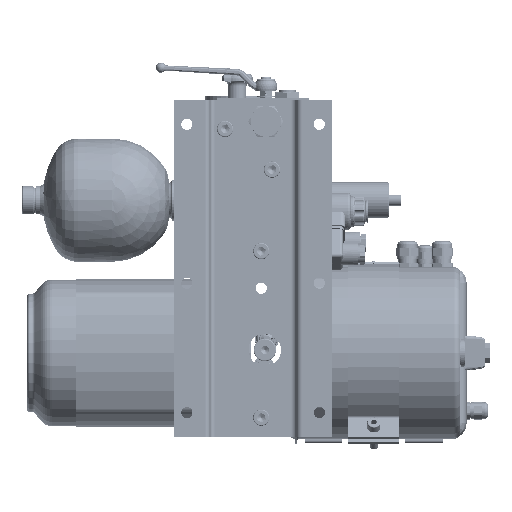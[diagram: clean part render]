
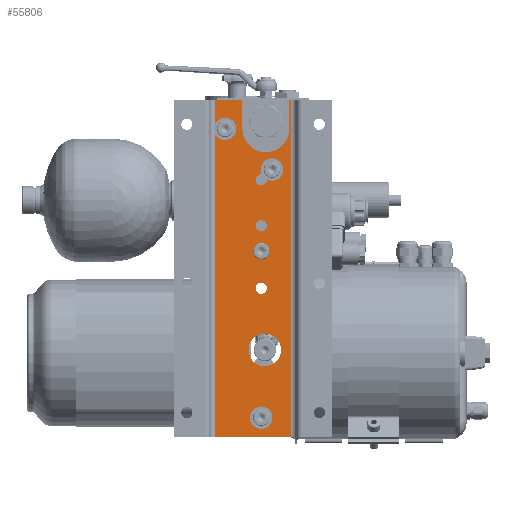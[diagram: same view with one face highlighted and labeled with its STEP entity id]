
A CAD part, front view. The second image highlights one B-rep face of the part: STEP entity #55806.
In plain terms, the highlighted planar face has unit normal (0, -1, 0).
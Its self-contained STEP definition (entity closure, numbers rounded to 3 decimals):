
#54300=DIRECTION('',(1.,0.,0.));
#54301=VECTOR('',#54300,2.);
#54302=CARTESIAN_POINT('',(68.264,-66.093,
247.035));
#54303=LINE('',#54302,#54301);
#54388=CARTESIAN_POINT('',(45.264,-66.093,
219.035));
#54389=DIRECTION('',(0.,1.,0.));
#54390=DIRECTION('',(0.,0.,-1.));
#54391=AXIS2_PLACEMENT_3D('',#54388,#54389,#54390);
#54396=CARTESIAN_POINT('',(45.264,-66.093,
219.035));
#54397=DIRECTION('',(0.,1.,0.));
#54398=DIRECTION('',(1.,0.,0.));
#54399=AXIS2_PLACEMENT_3D('',#54396,#54397,#54398);
#54404=DIRECTION('',(1.,0.,0.));
#54405=VECTOR('',#54404,75.);
#54406=CARTESIAN_POINT('',(-4.736,-66.093,
-82.965));
#54407=LINE('',#54406,#54405);
#54411=CARTESIAN_POINT('',(44.264,-66.093,
2.035));
#54412=DIRECTION('',(0.,1.,0.));
#54413=DIRECTION('',(0.,0.,1.));
#54414=AXIS2_PLACEMENT_3D('',#54411,#54412,#54413);
#54419=CARTESIAN_POINT('',(44.264,-66.093,
2.035));
#54420=DIRECTION('',(0.,1.,0.));
#54421=DIRECTION('',(0.,0.,-1.));
#54422=AXIS2_PLACEMENT_3D('',#54419,#54420,#54421);
#54427=CARTESIAN_POINT('',(40.764,-66.093,
169.035));
#54428=DIRECTION('',(0.,1.,0.));
#54429=DIRECTION('',(0.,0.,1.));
#54430=AXIS2_PLACEMENT_3D('',#54427,#54428,#54429);
#54435=CARTESIAN_POINT('',(40.764,-66.093,
169.035));
#54436=DIRECTION('',(0.,1.,0.));
#54437=DIRECTION('',(0.,0.,-1.));
#54438=AXIS2_PLACEMENT_3D('',#54435,#54436,#54437);
#54443=CARTESIAN_POINT('',(40.764,-66.093,
124.035));
#54444=DIRECTION('',(0.,1.,0.));
#54445=DIRECTION('',(0.,0.,1.));
#54446=AXIS2_PLACEMENT_3D('',#54443,#54444,#54445);
#54451=CARTESIAN_POINT('',(40.764,-66.093,
124.035));
#54452=DIRECTION('',(0.,1.,0.));
#54453=DIRECTION('',(0.,0.,-1.));
#54454=AXIS2_PLACEMENT_3D('',#54451,#54452,#54453);
#54459=CARTESIAN_POINT('',(5.264,-66.093,
219.035));
#54460=DIRECTION('',(0.,1.,0.));
#54461=DIRECTION('',(0.,0.,1.));
#54462=AXIS2_PLACEMENT_3D('',#54459,#54460,#54461);
#54467=CARTESIAN_POINT('',(5.264,-66.093,
219.035));
#54468=DIRECTION('',(0.,1.,0.));
#54469=DIRECTION('',(0.,0.,-1.));
#54470=AXIS2_PLACEMENT_3D('',#54467,#54468,#54469);
#54475=CARTESIAN_POINT('',(51.264,-66.093,
179.035));
#54476=DIRECTION('',(0.,1.,0.));
#54477=DIRECTION('',(0.,0.,1.));
#54478=AXIS2_PLACEMENT_3D('',#54475,#54476,#54477);
#54483=CARTESIAN_POINT('',(51.264,-66.093,
179.035));
#54484=DIRECTION('',(0.,1.,0.));
#54485=DIRECTION('',(0.,0.,-1.));
#54486=AXIS2_PLACEMENT_3D('',#54483,#54484,#54485);
#54491=CARTESIAN_POINT('',(40.764,-66.093,
99.035));
#54492=DIRECTION('',(0.,1.,0.));
#54493=DIRECTION('',(0.,0.,1.));
#54494=AXIS2_PLACEMENT_3D('',#54491,#54492,#54493);
#54499=CARTESIAN_POINT('',(40.764,-66.093,
99.035));
#54500=DIRECTION('',(0.,1.,0.));
#54501=DIRECTION('',(0.,0.,-1.));
#54502=AXIS2_PLACEMENT_3D('',#54499,#54500,#54501);
#54507=CARTESIAN_POINT('',(40.764,-66.093,
-64.465));
#54508=DIRECTION('',(0.,1.,0.));
#54509=DIRECTION('',(0.,0.,1.));
#54510=AXIS2_PLACEMENT_3D('',#54507,#54508,#54509);
#54515=CARTESIAN_POINT('',(40.764,-66.093,
-64.465));
#54516=DIRECTION('',(0.,1.,0.));
#54517=DIRECTION('',(0.,0.,-1.));
#54518=AXIS2_PLACEMENT_3D('',#54515,#54516,#54517);
#54523=CARTESIAN_POINT('',(40.764,-66.093,
62.535));
#54524=DIRECTION('',(0.,1.,0.));
#54525=DIRECTION('',(0.,0.,1.));
#54526=AXIS2_PLACEMENT_3D('',#54523,#54524,#54525);
#54531=CARTESIAN_POINT('',(40.764,-66.093,
62.535));
#54532=DIRECTION('',(0.,1.,0.));
#54533=DIRECTION('',(0.,0.,-1.));
#54534=AXIS2_PLACEMENT_3D('',#54531,#54532,#54533);
#54539=DIRECTION('',(0.,0.,1.));
#54540=VECTOR('',#54539,330.);
#54541=CARTESIAN_POINT('',(-4.736,-66.093,
-82.965));
#54542=LINE('',#54541,#54540);
#54567=DIRECTION('',(1.,0.,0.));
#54568=VECTOR('',#54567,27.);
#54569=CARTESIAN_POINT('',(-4.736,-66.093,
247.035));
#54570=LINE('',#54569,#54568);
#55113=DIRECTION('',(0.,0.,-1.));
#55114=VECTOR('',#55113,330.);
#55115=CARTESIAN_POINT('',(70.264,-66.093,
247.035));
#55116=LINE('',#55115,#55114);
#55314=DIRECTION('',(0.,0.,1.));
#55315=VECTOR('',#55314,28.);
#55316=CARTESIAN_POINT('',(68.264,-66.093,
219.035));
#55317=LINE('',#55316,#55315);
#55349=DIRECTION('',(0.,0.,-1.));
#55350=VECTOR('',#55349,28.);
#55351=CARTESIAN_POINT('',(22.264,-66.093,
247.035));
#55352=LINE('',#55351,#55350);
#55479=CARTESIAN_POINT('',(40.764,-66.093,
163.535));
#55480=CARTESIAN_POINT('',(40.764,-66.093,
174.535));
#55481=VERTEX_POINT('',#55479);
#55482=VERTEX_POINT('',#55480);
#55507=CARTESIAN_POINT('',(70.264,-66.093,
247.035));
#55508=VERTEX_POINT('',#55507);
#55533=CARTESIAN_POINT('',(44.264,-66.093,
-13.965));
#55534=CARTESIAN_POINT('',(44.264,-66.093,
18.035));
#55535=VERTEX_POINT('',#55533);
#55536=VERTEX_POINT('',#55534);
#55541=CARTESIAN_POINT('',(5.264,-66.093,
213.535));
#55542=CARTESIAN_POINT('',(5.264,-66.093,
224.535));
#55543=VERTEX_POINT('',#55541);
#55544=VERTEX_POINT('',#55542);
#55545=CARTESIAN_POINT('',(40.764,-66.093,
68.035));
#55546=VERTEX_POINT('',#55545);
#55566=CARTESIAN_POINT('',(40.764,-66.093,
-58.965));
#55568=VERTEX_POINT('',#55566);
#55571=CARTESIAN_POINT('',(22.264,-66.093,
247.035));
#55572=CARTESIAN_POINT('',(22.264,-66.093,
219.035));
#55573=VERTEX_POINT('',#55571);
#55574=VERTEX_POINT('',#55572);
#55585=CARTESIAN_POINT('',(-4.736,-66.093,
247.035));
#55586=VERTEX_POINT('',#55585);
#55597=CARTESIAN_POINT('',(68.264,-66.093,
219.035));
#55598=CARTESIAN_POINT('',(68.264,-66.093,
247.035));
#55599=VERTEX_POINT('',#55597);
#55600=VERTEX_POINT('',#55598);
#55607=CARTESIAN_POINT('',(-4.736,-66.093,
-82.965));
#55608=VERTEX_POINT('',#55607);
#55615=CARTESIAN_POINT('',(40.764,-66.093,
129.535));
#55616=CARTESIAN_POINT('',(40.764,-66.093,
118.535));
#55617=VERTEX_POINT('',#55615);
#55618=VERTEX_POINT('',#55616);
#55619=CARTESIAN_POINT('',(51.264,-66.093,
184.535));
#55620=CARTESIAN_POINT('',(51.264,-66.093,
173.535));
#55621=VERTEX_POINT('',#55619);
#55622=VERTEX_POINT('',#55620);
#55623=CARTESIAN_POINT('',(70.264,-66.093,
-82.965));
#55624=VERTEX_POINT('',#55623);
#55641=CARTESIAN_POINT('',(40.764,-66.093,
57.035));
#55642=VERTEX_POINT('',#55641);
#55643=CARTESIAN_POINT('',(45.264,-66.093,
196.035));
#55644=VERTEX_POINT('',#55643);
#55648=CARTESIAN_POINT('',(40.764,-66.093,
93.535));
#55650=VERTEX_POINT('',#55648);
#55666=CARTESIAN_POINT('',(40.764,-66.093,
104.535));
#55668=VERTEX_POINT('',#55666);
#55679=CARTESIAN_POINT('',(40.764,-66.093,
-69.965));
#55680=VERTEX_POINT('',#55679);
#55734=CARTESIAN_POINT('',(-4.736,-66.093,
247.035));
#55735=DIRECTION('',(0.,-1.,0.));
#55736=DIRECTION('',(0.,0.,-1.));
#55737=AXIS2_PLACEMENT_3D('',#55734,#55735,#55736);
#55738=PLANE('',#55737);
#55740=ORIENTED_EDGE('',*,*,#55739,.T.);
#55742=ORIENTED_EDGE('',*,*,#55741,.T.);
#55744=ORIENTED_EDGE('',*,*,#55743,.T.);
#55746=ORIENTED_EDGE('',*,*,#55745,.F.);
#55748=ORIENTED_EDGE('',*,*,#55747,.F.);
#55750=ORIENTED_EDGE('',*,*,#55749,.T.);
#55751=ORIENTED_EDGE('',*,*,#55708,.T.);
#55753=ORIENTED_EDGE('',*,*,#55752,.T.);
#55755=ORIENTED_EDGE('',*,*,#55754,.F.);
#55756=EDGE_LOOP('',(#55740,#55742,#55744,#55746,#55748,#55750,#55751,#55753,
#55755));
#55757=FACE_OUTER_BOUND('',#55756,.F.);
#55759=ORIENTED_EDGE('',*,*,#55758,.F.);
#55761=ORIENTED_EDGE('',*,*,#55760,.F.);
#55762=EDGE_LOOP('',(#55759,#55761));
#55763=FACE_BOUND('',#55762,.F.);
#55765=ORIENTED_EDGE('',*,*,#55764,.F.);
#55767=ORIENTED_EDGE('',*,*,#55766,.F.);
#55768=EDGE_LOOP('',(#55765,#55767));
#55769=FACE_BOUND('',#55768,.F.);
#55771=ORIENTED_EDGE('',*,*,#55770,.F.);
#55773=ORIENTED_EDGE('',*,*,#55772,.F.);
#55774=EDGE_LOOP('',(#55771,#55773));
#55775=FACE_BOUND('',#55774,.F.);
#55777=ORIENTED_EDGE('',*,*,#55776,.F.);
#55779=ORIENTED_EDGE('',*,*,#55778,.F.);
#55780=EDGE_LOOP('',(#55777,#55779));
#55781=FACE_BOUND('',#55780,.F.);
#55783=ORIENTED_EDGE('',*,*,#55782,.F.);
#55785=ORIENTED_EDGE('',*,*,#55784,.F.);
#55786=EDGE_LOOP('',(#55783,#55785));
#55787=FACE_BOUND('',#55786,.F.);
#55789=ORIENTED_EDGE('',*,*,#55788,.F.);
#55791=ORIENTED_EDGE('',*,*,#55790,.F.);
#55792=EDGE_LOOP('',(#55789,#55791));
#55793=FACE_BOUND('',#55792,.F.);
#55795=ORIENTED_EDGE('',*,*,#55794,.F.);
#55797=ORIENTED_EDGE('',*,*,#55796,.F.);
#55798=EDGE_LOOP('',(#55795,#55797));
#55799=FACE_BOUND('',#55798,.F.);
#55801=ORIENTED_EDGE('',*,*,#55800,.F.);
#55803=ORIENTED_EDGE('',*,*,#55802,.F.);
#55804=EDGE_LOOP('',(#55801,#55803));
#55805=FACE_BOUND('',#55804,.F.);
#55806=ADVANCED_FACE('',(#55757,#55763,#55769,#55775,#55781,#55787,#55793,
#55799,#55805),#55738,.T.);
#54392=CIRCLE('',#54391,23.);
#54400=CIRCLE('',#54399,23.);
#54415=CIRCLE('',#54414,16.);
#54423=CIRCLE('',#54422,16.);
#54431=CIRCLE('',#54430,5.5);
#54439=CIRCLE('',#54438,5.5);
#54447=CIRCLE('',#54446,5.5);
#54455=CIRCLE('',#54454,5.5);
#54463=CIRCLE('',#54462,5.5);
#54471=CIRCLE('',#54470,5.5);
#54479=CIRCLE('',#54478,5.5);
#54487=CIRCLE('',#54486,5.5);
#54495=CIRCLE('',#54494,5.5);
#54503=CIRCLE('',#54502,5.5);
#54511=CIRCLE('',#54510,5.5);
#54519=CIRCLE('',#54518,5.5);
#54527=CIRCLE('',#54526,5.5);
#54535=CIRCLE('',#54534,5.5);
#55708=EDGE_CURVE('',#55600,#55508,#54303,.T.);
#55739=EDGE_CURVE('',#55608,#55586,#54542,.T.);
#55741=EDGE_CURVE('',#55586,#55573,#54570,.T.);
#55743=EDGE_CURVE('',#55573,#55574,#55352,.T.);
#55745=EDGE_CURVE('',#55644,#55574,#54392,.T.);
#55747=EDGE_CURVE('',#55599,#55644,#54400,.T.);
#55749=EDGE_CURVE('',#55599,#55600,#55317,.T.);
#55752=EDGE_CURVE('',#55508,#55624,#55116,.T.);
#55754=EDGE_CURVE('',#55608,#55624,#54407,.T.);
#55758=EDGE_CURVE('',#55536,#55535,#54415,.T.);
#55760=EDGE_CURVE('',#55535,#55536,#54423,.T.);
#55764=EDGE_CURVE('',#55482,#55481,#54431,.T.);
#55766=EDGE_CURVE('',#55481,#55482,#54439,.T.);
#55770=EDGE_CURVE('',#55617,#55618,#54447,.T.);
#55772=EDGE_CURVE('',#55618,#55617,#54455,.T.);
#55776=EDGE_CURVE('',#55544,#55543,#54463,.T.);
#55778=EDGE_CURVE('',#55543,#55544,#54471,.T.);
#55782=EDGE_CURVE('',#55621,#55622,#54479,.T.);
#55784=EDGE_CURVE('',#55622,#55621,#54487,.T.);
#55788=EDGE_CURVE('',#55668,#55650,#54495,.T.);
#55790=EDGE_CURVE('',#55650,#55668,#54503,.T.);
#55794=EDGE_CURVE('',#55568,#55680,#54511,.T.);
#55796=EDGE_CURVE('',#55680,#55568,#54519,.T.);
#55800=EDGE_CURVE('',#55546,#55642,#54527,.T.);
#55802=EDGE_CURVE('',#55642,#55546,#54535,.T.);
